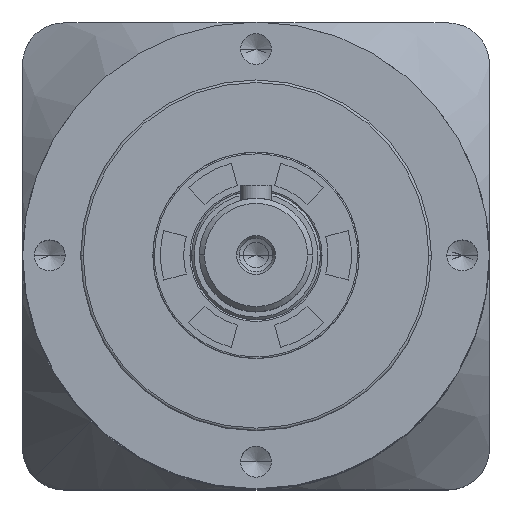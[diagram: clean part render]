
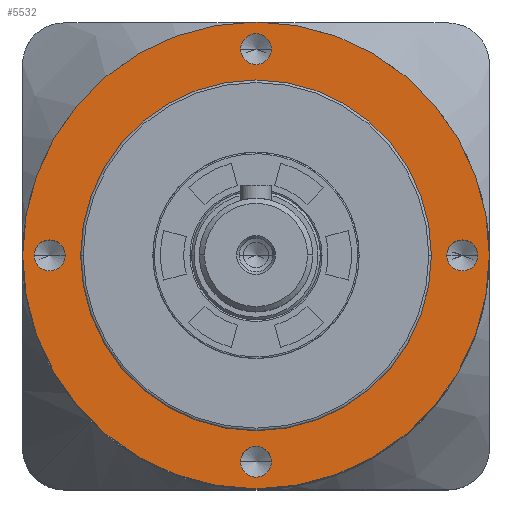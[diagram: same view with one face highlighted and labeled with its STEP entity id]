
A CAD part, top view. The second image highlights one B-rep face of the part: STEP entity #5532.
In plain terms, the highlighted planar face has unit normal (0, 0, 1).
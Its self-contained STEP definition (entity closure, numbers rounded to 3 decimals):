
#106 = VERTEX_POINT ( 'NONE', #5585 ) ;
#414 = CIRCLE ( 'NONE', #14720, 3. ) ;
#502 = ORIENTED_EDGE ( 'NONE', *, *, #4899, .F. ) ;
#510 = AXIS2_PLACEMENT_3D ( 'NONE', #30266, #13003, #723 ) ;
#592 = EDGE_CURVE ( 'NONE', #26905, #2282, #10327, .T. ) ;
#723 = DIRECTION ( 'NONE',  ( 1., 0., 0. ) ) ;
#892 = ORIENTED_EDGE ( 'NONE', *, *, #28684, .F. ) ;
#999 = VERTEX_POINT ( 'NONE', #16948 ) ;
#1150 = CIRCLE ( 'NONE', #29825, 3. ) ;
#1405 = VERTEX_POINT ( 'NONE', #20903 ) ;
#2134 = CARTESIAN_POINT ( 'NONE',  ( -43., 0., 18.1 ) ) ;
#2148 = AXIS2_PLACEMENT_3D ( 'NONE', #3443, #27969, #23366 ) ;
#2282 = VERTEX_POINT ( 'NONE', #11750 ) ;
#2611 = CARTESIAN_POINT ( 'NONE',  ( -40., 0., 18.1 ) ) ;
#2749 = CARTESIAN_POINT ( 'NONE',  ( 40., 0., 18.1 ) ) ;
#2805 = ORIENTED_EDGE ( 'NONE', *, *, #29662, .F. ) ;
#3055 = FACE_OUTER_BOUND ( 'NONE', #16955, .T. ) ;
#3443 = CARTESIAN_POINT ( 'NONE',  ( 0., 40., 18.1 ) ) ;
#3853 = DIRECTION ( 'NONE',  ( 0., 0., 1. ) ) ;
#4731 = CARTESIAN_POINT ( 'NONE',  ( 3., -40., 18.1 ) ) ;
#4899 = EDGE_CURVE ( 'NONE', #106, #17314, #23689, .T. ) ;
#5325 = DIRECTION ( 'NONE',  ( 0., 0., 1. ) ) ;
#5449 = CARTESIAN_POINT ( 'NONE',  ( 0., 0., 18.1 ) ) ;
#5532 = ADVANCED_FACE ( 'NONE', ( #27693, #29236, #19259, #9624, #6149, #3055 ), #30157, .T. ) ;
#5585 = CARTESIAN_POINT ( 'NONE',  ( 43., 0., 18.1 ) ) ;
#5771 = DIRECTION ( 'NONE',  ( 1., 0., 0. ) ) ;
#6149 = FACE_BOUND ( 'NONE', #27979, .T. ) ;
#6475 = CARTESIAN_POINT ( 'NONE',  ( 0., 0., 18.1 ) ) ;
#6606 = DIRECTION ( 'NONE',  ( 0., 0., 1. ) ) ;
#7055 = ORIENTED_EDGE ( 'NONE', *, *, #592, .T. ) ;
#7134 = ORIENTED_EDGE ( 'NONE', *, *, #22645, .F. ) ;
#7333 = EDGE_LOOP ( 'NONE', ( #25459, #20447 ) ) ;
#7395 = CARTESIAN_POINT ( 'NONE',  ( -45.25, 0., 18.1 ) ) ;
#7608 = AXIS2_PLACEMENT_3D ( 'NONE', #2749, #5325, #19973 ) ;
#7837 = EDGE_CURVE ( 'NONE', #7849, #1405, #22785, .T. ) ;
#7849 = VERTEX_POINT ( 'NONE', #2134 ) ;
#8866 = EDGE_CURVE ( 'NONE', #1405, #7849, #1150, .T. ) ;
#8995 = DIRECTION ( 'NONE',  ( 1., 0., 0. ) ) ;
#9329 = EDGE_LOOP ( 'NONE', ( #892, #23854 ) ) ;
#9624 = FACE_BOUND ( 'NONE', #9329, .T. ) ;
#9834 = DIRECTION ( 'NONE',  ( 0., 0., 1. ) ) ;
#10135 = DIRECTION ( 'NONE',  ( 1., 0., 0. ) ) ;
#10174 = AXIS2_PLACEMENT_3D ( 'NONE', #18641, #6606, #11334 ) ;
#10297 = DIRECTION ( 'NONE',  ( 0., 0., 1. ) ) ;
#10327 = CIRCLE ( 'NONE', #23556, 45.25 ) ;
#10412 = EDGE_CURVE ( 'NONE', #28016, #31039, #19268, .T. ) ;
#11154 = DIRECTION ( 'NONE',  ( 0., 0., 1. ) ) ;
#11281 = EDGE_CURVE ( 'NONE', #26273, #18144, #23099, .T. ) ;
#11334 = DIRECTION ( 'NONE',  ( 1., 0., 0. ) ) ;
#11750 = CARTESIAN_POINT ( 'NONE',  ( 45.25, 0., 18.1 ) ) ;
#11935 = CARTESIAN_POINT ( 'NONE',  ( 0., 40., 18.1 ) ) ;
#12654 = EDGE_LOOP ( 'NONE', ( #502, #23406 ) ) ;
#13003 = DIRECTION ( 'NONE',  ( 0., 0., 1. ) ) ;
#13570 = AXIS2_PLACEMENT_3D ( 'NONE', #24852, #10297, #22680 ) ;
#13657 = CARTESIAN_POINT ( 'NONE',  ( 34., 0., 18.1 ) ) ;
#13845 = CIRCLE ( 'NONE', #10174, 3. ) ;
#13861 = CARTESIAN_POINT ( 'NONE',  ( 40., 0., 18.1 ) ) ;
#14026 = DIRECTION ( 'NONE',  ( 0., 0., 1. ) ) ;
#14265 = CARTESIAN_POINT ( 'NONE',  ( -34., 0., 18.1 ) ) ;
#14720 = AXIS2_PLACEMENT_3D ( 'NONE', #13861, #11154, #8995 ) ;
#15580 = AXIS2_PLACEMENT_3D ( 'NONE', #5449, #22684, #5771 ) ;
#15961 = CIRCLE ( 'NONE', #30384, 3. ) ;
#16343 = DIRECTION ( 'NONE',  ( 1., 0., 0. ) ) ;
#16656 = DIRECTION ( 'NONE',  ( 1., 0., 0. ) ) ;
#16948 = CARTESIAN_POINT ( 'NONE',  ( -3., -40., 18.1 ) ) ;
#16955 = EDGE_LOOP ( 'NONE', ( #23899, #7055 ) ) ;
#17314 = VERTEX_POINT ( 'NONE', #20335 ) ;
#17647 = DIRECTION ( 'NONE',  ( 0., 0., 1. ) ) ;
#18144 = VERTEX_POINT ( 'NONE', #14265 ) ;
#18641 = CARTESIAN_POINT ( 'NONE',  ( 0., -40., 18.1 ) ) ;
#18733 = DIRECTION ( 'NONE',  ( 1., 0., 0. ) ) ;
#18884 = AXIS2_PLACEMENT_3D ( 'NONE', #11935, #24117, #16656 ) ;
#19259 = FACE_BOUND ( 'NONE', #7333, .T. ) ;
#19268 = CIRCLE ( 'NONE', #2148, 3. ) ;
#19819 = CARTESIAN_POINT ( 'NONE',  ( 0., 0., 18.1 ) ) ;
#19973 = DIRECTION ( 'NONE',  ( 1., 0., 0. ) ) ;
#20233 = EDGE_LOOP ( 'NONE', ( #7134, #2805 ) ) ;
#20335 = CARTESIAN_POINT ( 'NONE',  ( 37., 0., 18.1 ) ) ;
#20359 = CIRCLE ( 'NONE', #28723, 45.25 ) ;
#20447 = ORIENTED_EDGE ( 'NONE', *, *, #7837, .F. ) ;
#20903 = CARTESIAN_POINT ( 'NONE',  ( -37., 0., 18.1 ) ) ;
#21211 = DIRECTION ( 'NONE',  ( 0., 0., 1. ) ) ;
#21503 = EDGE_CURVE ( 'NONE', #17314, #106, #414, .T. ) ;
#21642 = CARTESIAN_POINT ( 'NONE',  ( 0., -40., 18.1 ) ) ;
#21783 = CIRCLE ( 'NONE', #18884, 3. ) ;
#22645 = EDGE_CURVE ( 'NONE', #23849, #999, #13845, .T. ) ;
#22680 = DIRECTION ( 'NONE',  ( 1., 0., 0. ) ) ;
#22684 = DIRECTION ( 'NONE',  ( 0., 0., 1. ) ) ;
#22785 = CIRCLE ( 'NONE', #13570, 3. ) ;
#23037 = EDGE_CURVE ( 'NONE', #2282, #26905, #20359, .T. ) ;
#23099 = CIRCLE ( 'NONE', #510, 34. ) ;
#23206 = ORIENTED_EDGE ( 'NONE', *, *, #29635, .F. ) ;
#23366 = DIRECTION ( 'NONE',  ( 1., 0., 0. ) ) ;
#23406 = ORIENTED_EDGE ( 'NONE', *, *, #21503, .F. ) ;
#23516 = ORIENTED_EDGE ( 'NONE', *, *, #11281, .F. ) ;
#23556 = AXIS2_PLACEMENT_3D ( 'NONE', #30928, #3853, #16343 ) ;
#23689 = CIRCLE ( 'NONE', #7608, 3. ) ;
#23849 = VERTEX_POINT ( 'NONE', #4731 ) ;
#23854 = ORIENTED_EDGE ( 'NONE', *, *, #10412, .F. ) ;
#23899 = ORIENTED_EDGE ( 'NONE', *, *, #23037, .T. ) ;
#24117 = DIRECTION ( 'NONE',  ( 0., 0., 1. ) ) ;
#24703 = DIRECTION ( 'NONE',  ( 1., 0., 0. ) ) ;
#24852 = CARTESIAN_POINT ( 'NONE',  ( -40., 0., 18.1 ) ) ;
#25459 = ORIENTED_EDGE ( 'NONE', *, *, #8866, .F. ) ;
#25467 = AXIS2_PLACEMENT_3D ( 'NONE', #6475, #14026, #28616 ) ;
#26273 = VERTEX_POINT ( 'NONE', #13657 ) ;
#26905 = VERTEX_POINT ( 'NONE', #7395 ) ;
#27219 = CARTESIAN_POINT ( 'NONE',  ( -3., 40., 18.1 ) ) ;
#27693 = FACE_BOUND ( 'NONE', #12654, .T. ) ;
#27969 = DIRECTION ( 'NONE',  ( 0., 0., 1. ) ) ;
#27979 = EDGE_LOOP ( 'NONE', ( #23206, #23516 ) ) ;
#28016 = VERTEX_POINT ( 'NONE', #27219 ) ;
#28259 = CIRCLE ( 'NONE', #25467, 34. ) ;
#28616 = DIRECTION ( 'NONE',  ( 1., 0., 0. ) ) ;
#28684 = EDGE_CURVE ( 'NONE', #31039, #28016, #21783, .T. ) ;
#28723 = AXIS2_PLACEMENT_3D ( 'NONE', #19819, #17647, #10135 ) ;
#29236 = FACE_BOUND ( 'NONE', #20233, .T. ) ;
#29386 = CARTESIAN_POINT ( 'NONE',  ( 3., 40., 18.1 ) ) ;
#29635 = EDGE_CURVE ( 'NONE', #18144, #26273, #28259, .T. ) ;
#29662 = EDGE_CURVE ( 'NONE', #999, #23849, #15961, .T. ) ;
#29825 = AXIS2_PLACEMENT_3D ( 'NONE', #2611, #9834, #24703 ) ;
#30157 = PLANE ( 'NONE',  #15580 ) ;
#30266 = CARTESIAN_POINT ( 'NONE',  ( 0., 0., 18.1 ) ) ;
#30384 = AXIS2_PLACEMENT_3D ( 'NONE', #21642, #21211, #18733 ) ;
#30928 = CARTESIAN_POINT ( 'NONE',  ( 0., 0., 18.1 ) ) ;
#31039 = VERTEX_POINT ( 'NONE', #29386 ) ;
